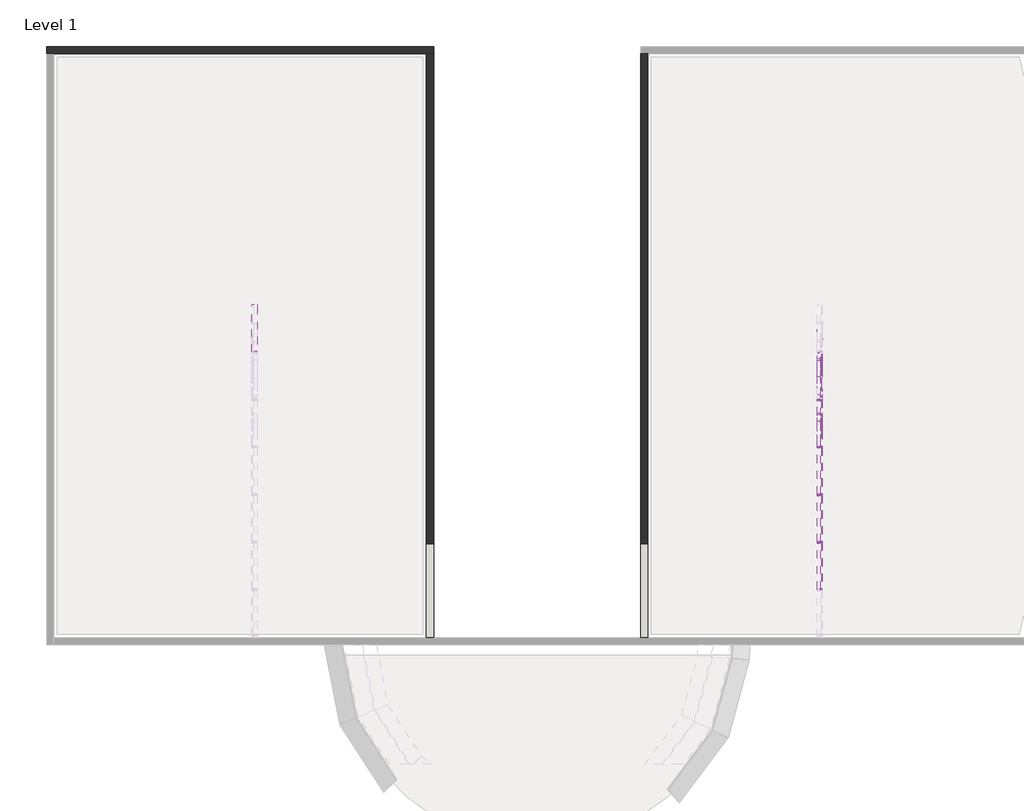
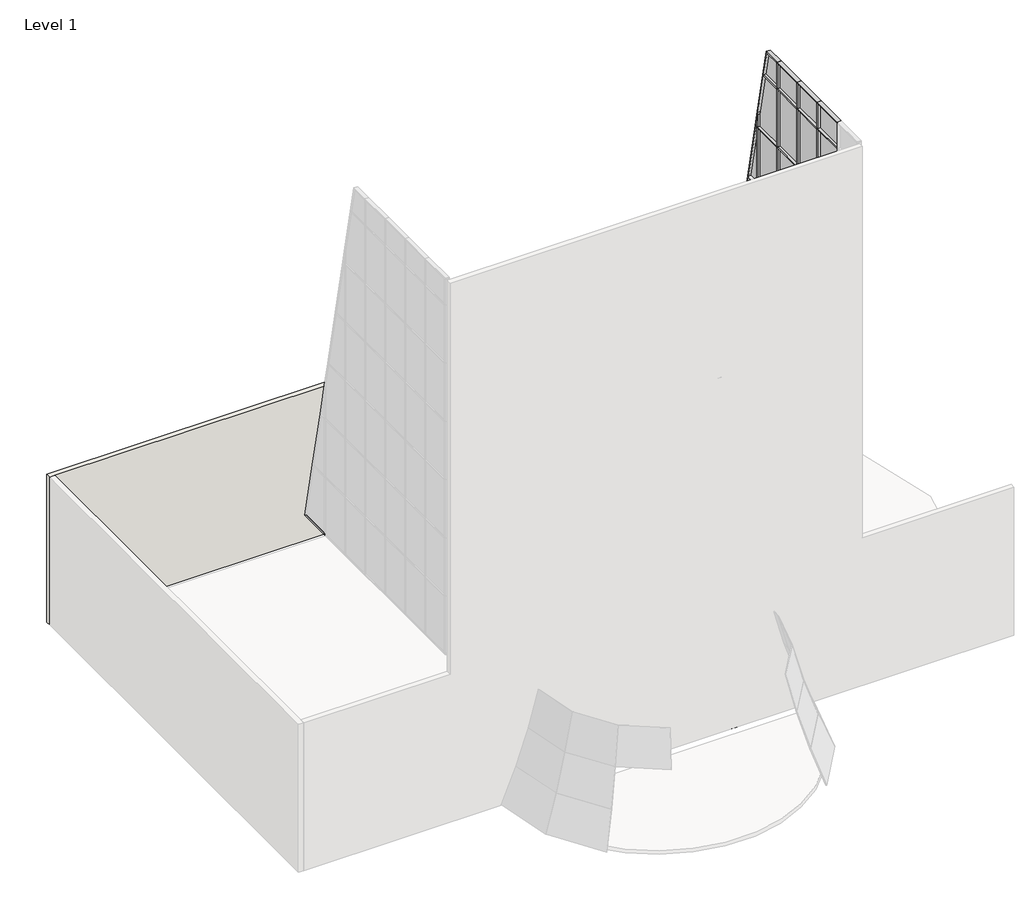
# One storey, part 3 of 4: 71 members, 35 plates, 3 walls.
"""IFC4 building model written with IfcOpenShell, lengths in millimetres."""

from ifc_helpers import new_model, si_unit, frame, origin, place, context, project, spatial, polyline, outline, extrude, faceted_brep, transform, mapped, element, save
from components import rectangular_mullion_50_x_150mm_518b68e2, rectangular_mullion_50_x_150mm_6225e4e3, rectangular_mullion_50_x_150mm_4186046b, rectangular_mullion_50_x_150mm_c32e1d9f, rectangular_mullion_50_x_150mm_f7b9a3ec, rectangular_mullion_50_x_150mm_a9c68ae1, rectangular_mullion_50_x_150mm_560a7013, rectangular_mullion_50_x_150mm_67848945, rectangular_mullion_50_x_150mm_3844b6de, rectangular_mullion_50_x_150mm_a6983a9d, rectangular_mullion_50_x_150mm_5f09bd8f, rectangular_mullion_50_x_150mm_ab79993e, rectangular_mullion_50_x_150mm_c65e338b, rectangular_mullion_50_x_150mm_b0743fa1, rectangular_mullion_50_x_150mm_df767b7e, rectangular_mullion_50_x_150mm_ab824ad0, rectangular_mullion_50_x_150mm_58501d06, system_panel_glazed_df259216, system_panel_glazed_5715ea40, system_panel_glazed_be4283e0, system_panel_glazed_d1c3b477, system_panel_glazed_e1aeb1aa, system_panel_glazed_6666598a, system_panel_glazed_d92d7be8, system_panel_glazed_97ec93bc, system_panel_glazed_90b81010, system_panel_glazed_8f3f999c

model = new_model("IFC4")

# Units and contexts
model_context = context("Model", 3, world=origin())
ifc_project = project(units=[si_unit("LENGTHUNIT", "METRE", prefix="MILLI")], contexts=[model_context])

# Site, building, storey
site = spatial("IfcSite", under=ifc_project)
building = spatial("IfcBuilding", under=site)
storey = spatial("IfcBuildingStorey", under=building, Name="Level 1", Elevation=0.0)

# Members
placement = place(None, origin())
rectangular_mullion_50_x_150mm_shape = rectangular_mullion_50_x_150mm_518b68e2(model_context)
element("IfcMember", 1, ObjectType="Rectangular Mullion : 50 x 150mm", at=placement, inside=storey, context=model_context, shape_type="MappedRepresentation", body=[
    mapped(rectangular_mullion_50_x_150mm_shape, transform((7953.3508723, 1296.5349876, 6850.0), x_axis=(0.0, 1.0, 0.0), y_axis=(1.0, 0.0, 0.0), z_axis=(0.0, 0.0, -1.0))),
])
element("IfcMember", 2, ObjectType="Rectangular Mullion : 50 x 150mm", at=placement, inside=storey, context=model_context, shape_type="MappedRepresentation", body=[
    mapped(rectangular_mullion_50_x_150mm_shape, transform((7953.3508723, 2649.855223, 6850.0), x_axis=(0.0, 1.0, 0.0), y_axis=(1.0, 0.0, 0.0), z_axis=(0.0, 0.0, -1.0))),
])
element("IfcMember", 3, ObjectType="Rectangular Mullion : 50 x 150mm", at=placement, inside=storey, context=model_context, shape_type="MappedRepresentation", body=[
    mapped(rectangular_mullion_50_x_150mm_shape, transform((7953.3508723, 4003.1754584, 6850.0), x_axis=(0.0, 1.0, 0.0), y_axis=(1.0, 0.0, 0.0), z_axis=(0.0, 0.0, -1.0))),
])
element("IfcMember", 4, ObjectType="Rectangular Mullion : 50 x 150mm", at=placement, inside=storey, context=model_context, shape_type="MappedRepresentation", body=[
    mapped(rectangular_mullion_50_x_150mm_shape, transform((7953.3508723, 5356.4956938, 6850.0), x_axis=(0.0, 1.0, 0.0), y_axis=(1.0, 0.0, 0.0), z_axis=(0.0, 0.0, -1.0))),
])
rectangular_mullion_50_x_150mm_2_shape = rectangular_mullion_50_x_150mm_6225e4e3(model_context)
element("IfcMember", 5, ObjectType="Rectangular Mullion : 50 x 150mm", at=placement, inside=storey, context=model_context, shape_type="MappedRepresentation", body=[
    mapped(rectangular_mullion_50_x_150mm_2_shape, transform((7953.3508723, 1296.5349876, 9200.0), x_axis=(0.0, 1.0, 0.0), y_axis=(1.0, 0.0, 0.0), z_axis=(0.0, 0.0, -1.0))),
])
element("IfcMember", 6, ObjectType="Rectangular Mullion : 50 x 150mm", at=placement, inside=storey, context=model_context, shape_type="MappedRepresentation", body=[
    mapped(rectangular_mullion_50_x_150mm_2_shape, transform((7953.3508723, 2649.855223, 9200.0), x_axis=(0.0, 1.0, 0.0), y_axis=(1.0, 0.0, 0.0), z_axis=(0.0, 0.0, -1.0))),
])
element("IfcMember", 7, ObjectType="Rectangular Mullion : 50 x 150mm", at=placement, inside=storey, context=model_context, shape_type="MappedRepresentation", body=[
    mapped(rectangular_mullion_50_x_150mm_2_shape, transform((7953.3508723, 4003.1754584, 9200.0), x_axis=(0.0, 1.0, 0.0), y_axis=(1.0, 0.0, 0.0), z_axis=(0.0, 0.0, -1.0))),
])
element("IfcMember", 8, ObjectType="Rectangular Mullion : 50 x 150mm", at=placement, inside=storey, context=model_context, shape_type="MappedRepresentation", body=[
    mapped(rectangular_mullion_50_x_150mm_2_shape, transform((7953.3508723, 5356.4956938, 9200.0), x_axis=(0.0, 1.0, 0.0), y_axis=(1.0, 0.0, 0.0), z_axis=(0.0, 0.0, -1.0))),
])
element("IfcMember", 9, ObjectType="Rectangular Mullion : 50 x 150mm", at=placement, inside=storey, context=model_context, shape_type="MappedRepresentation", body=[
    mapped(rectangular_mullion_50_x_150mm_2_shape, transform((7953.3508723, 1296.5349876, 11600.0), x_axis=(0.0, 1.0, 0.0), y_axis=(1.0, 0.0, 0.0), z_axis=(0.0, 0.0, -1.0))),
])
element("IfcMember", 10, ObjectType="Rectangular Mullion : 50 x 150mm", at=placement, inside=storey, context=model_context, shape_type="MappedRepresentation", body=[
    mapped(rectangular_mullion_50_x_150mm_2_shape, transform((7953.3508723, 2649.855223, 11600.0), x_axis=(0.0, 1.0, 0.0), y_axis=(1.0, 0.0, 0.0), z_axis=(0.0, 0.0, -1.0))),
])
element("IfcMember", 11, ObjectType="Rectangular Mullion : 50 x 150mm", at=placement, inside=storey, context=model_context, shape_type="MappedRepresentation", body=[
    mapped(rectangular_mullion_50_x_150mm_2_shape, transform((7953.3508723, 4003.1754584, 11600.0), x_axis=(0.0, 1.0, 0.0), y_axis=(1.0, 0.0, 0.0), z_axis=(0.0, 0.0, -1.0))),
])
element("IfcMember", 12, ObjectType="Rectangular Mullion : 50 x 150mm", at=placement, inside=storey, context=model_context, shape_type="MappedRepresentation", body=[
    mapped(rectangular_mullion_50_x_150mm_2_shape, transform((7953.3508723, 5356.4956938, 11600.0), x_axis=(0.0, 1.0, 0.0), y_axis=(1.0, 0.0, 0.0), z_axis=(0.0, 0.0, -1.0))),
])
element("IfcMember", 13, ObjectType="Rectangular Mullion : 50 x 150mm", at=placement, inside=storey, context=model_context, shape_type="MappedRepresentation", body=[
    mapped(rectangular_mullion_50_x_150mm_2_shape, transform((7953.3508723, 1296.5349876, 14000.0), x_axis=(0.0, 1.0, 0.0), y_axis=(1.0, 0.0, 0.0), z_axis=(0.0, 0.0, -1.0))),
])
element("IfcMember", 14, ObjectType="Rectangular Mullion : 50 x 150mm", at=placement, inside=storey, context=model_context, shape_type="MappedRepresentation", body=[
    mapped(rectangular_mullion_50_x_150mm_2_shape, transform((7953.3508723, 2649.855223, 14000.0), x_axis=(0.0, 1.0, 0.0), y_axis=(1.0, 0.0, 0.0), z_axis=(0.0, 0.0, -1.0))),
])
element("IfcMember", 15, ObjectType="Rectangular Mullion : 50 x 150mm", at=placement, inside=storey, context=model_context, shape_type="MappedRepresentation", body=[
    mapped(rectangular_mullion_50_x_150mm_2_shape, transform((7953.3508723, 4003.1754584, 14000.0), x_axis=(0.0, 1.0, 0.0), y_axis=(1.0, 0.0, 0.0), z_axis=(0.0, 0.0, -1.0))),
])
element("IfcMember", 16, ObjectType="Rectangular Mullion : 50 x 150mm", at=placement, inside=storey, context=model_context, shape_type="MappedRepresentation", body=[
    mapped(rectangular_mullion_50_x_150mm_2_shape, transform((7953.3508723, 5356.4956938, 14000.0), x_axis=(0.0, 1.0, 0.0), y_axis=(1.0, 0.0, 0.0), z_axis=(0.0, 0.0, -1.0))),
])
element("IfcMember", 17, ObjectType="Rectangular Mullion : 50 x 150mm", at=placement, inside=storey, context=model_context, shape_type="MappedRepresentation", body=[
    mapped(rectangular_mullion_50_x_150mm_2_shape, transform((7953.3508723, 1296.5349876, 16400.0), x_axis=(0.0, 1.0, 0.0), y_axis=(1.0, 0.0, 0.0), z_axis=(0.0, 0.0, -1.0))),
])
element("IfcMember", 18, ObjectType="Rectangular Mullion : 50 x 150mm", at=placement, inside=storey, context=model_context, shape_type="MappedRepresentation", body=[
    mapped(rectangular_mullion_50_x_150mm_2_shape, transform((7953.3508723, 2649.855223, 16400.0), x_axis=(0.0, 1.0, 0.0), y_axis=(1.0, 0.0, 0.0), z_axis=(0.0, 0.0, -1.0))),
])
element("IfcMember", 19, ObjectType="Rectangular Mullion : 50 x 150mm", at=placement, inside=storey, context=model_context, shape_type="MappedRepresentation", body=[
    mapped(rectangular_mullion_50_x_150mm_2_shape, transform((7953.3508723, 4003.1754584, 16400.0), x_axis=(0.0, 1.0, 0.0), y_axis=(1.0, 0.0, 0.0), z_axis=(0.0, 0.0, -1.0))),
])
element("IfcMember", 20, ObjectType="Rectangular Mullion : 50 x 150mm", at=placement, inside=storey, context=model_context, shape_type="MappedRepresentation", body=[
    mapped(rectangular_mullion_50_x_150mm_2_shape, transform((7953.3508723, 5356.4956938, 16400.0), x_axis=(0.0, 1.0, 0.0), y_axis=(1.0, 0.0, 0.0), z_axis=(0.0, 0.0, -1.0))),
])
element("IfcMember", 21, ObjectType="Rectangular Mullion : 50 x 150mm", at=placement, inside=storey, context=model_context, shape_type="MappedRepresentation", body=[
    mapped(rectangular_mullion_50_x_150mm_2_shape, transform((7953.3508723, 1296.5349876, 18800.0), x_axis=(0.0, 1.0, 0.0), y_axis=(1.0, 0.0, 0.0), z_axis=(0.0, 0.0, -1.0))),
])
element("IfcMember", 22, ObjectType="Rectangular Mullion : 50 x 150mm", at=placement, inside=storey, context=model_context, shape_type="MappedRepresentation", body=[
    mapped(rectangular_mullion_50_x_150mm_2_shape, transform((7953.3508723, 2649.855223, 18800.0), x_axis=(0.0, 1.0, 0.0), y_axis=(1.0, 0.0, 0.0), z_axis=(0.0, 0.0, -1.0))),
])
element("IfcMember", 23, ObjectType="Rectangular Mullion : 50 x 150mm", at=placement, inside=storey, context=model_context, shape_type="MappedRepresentation", body=[
    mapped(rectangular_mullion_50_x_150mm_2_shape, transform((7953.3508723, 4003.1754584, 18800.0), x_axis=(0.0, 1.0, 0.0), y_axis=(1.0, 0.0, 0.0), z_axis=(0.0, 0.0, -1.0))),
])
rectangular_mullion_50_x_150mm_3_shape = rectangular_mullion_50_x_150mm_4186046b(model_context)
element("IfcMember", 24, ObjectType="Rectangular Mullion : 50 x 150mm", at=placement, inside=storey, context=model_context, shape_type="MappedRepresentation", body=[
    mapped(rectangular_mullion_50_x_150mm_3_shape, transform((7953.3508723, 1296.5349876, 22300.0), x_axis=(0.0, 0.0, 1.0), y_axis=(1.0, 0.0, 0.0), z_axis=(0.0, 1.0, 0.0))),
])
element("IfcMember", 25, ObjectType="Rectangular Mullion : 50 x 150mm", at=placement, inside=storey, context=model_context, shape_type="MappedRepresentation", body=[
    mapped(rectangular_mullion_50_x_150mm_3_shape, transform((7953.3508723, 2649.855223, 22300.0), x_axis=(0.0, 0.0, 1.0), y_axis=(1.0, 0.0, 0.0), z_axis=(0.0, 1.0, 0.0))),
])
element("IfcMember", 26, ObjectType="Rectangular Mullion : 50 x 150mm", at=placement, inside=storey, context=model_context, shape_type="MappedRepresentation", body=[
    mapped(rectangular_mullion_50_x_150mm_3_shape, transform((7953.3508723, 4003.1754584, 22300.0), x_axis=(0.0, 0.0, 1.0), y_axis=(1.0, 0.0, 0.0), z_axis=(0.0, 1.0, 0.0))),
])
element("IfcMember", 27, ObjectType="Rectangular Mullion : 50 x 150mm", at=placement, inside=storey, context=model_context, shape_type="MappedRepresentation", body=[
    mapped(rectangular_mullion_50_x_150mm_3_shape, transform((7953.3508723, 1296.5349876, 6800.0), x_axis=(0.0, 0.0, -1.0), y_axis=(1.0, 0.0, 0.0), z_axis=(0.0, -1.0, 0.0))),
])
element("IfcMember", 28, ObjectType="Rectangular Mullion : 50 x 150mm", at=placement, inside=storey, context=model_context, shape_type="MappedRepresentation", body=[
    mapped(rectangular_mullion_50_x_150mm_3_shape, transform((7953.3508723, 2649.855223, 6800.0), x_axis=(0.0, 0.0, -1.0), y_axis=(1.0, 0.0, 0.0), z_axis=(0.0, -1.0, 0.0))),
])
element("IfcMember", 29, ObjectType="Rectangular Mullion : 50 x 150mm", at=placement, inside=storey, context=model_context, shape_type="MappedRepresentation", body=[
    mapped(rectangular_mullion_50_x_150mm_3_shape, transform((7953.3508723, 4003.1754584, 6800.0), x_axis=(0.0, 0.0, -1.0), y_axis=(1.0, 0.0, 0.0), z_axis=(0.0, -1.0, 0.0))),
])
element("IfcMember", 30, ObjectType="Rectangular Mullion : 50 x 150mm", at=placement, inside=storey, context=model_context, shape_type="MappedRepresentation", body=[
    mapped(rectangular_mullion_50_x_150mm_3_shape, transform((7953.3508723, 5356.4956938, 6800.0), x_axis=(0.0, 0.0, -1.0), y_axis=(1.0, 0.0, 0.0), z_axis=(0.0, -1.0, 0.0))),
])
rectangular_mullion_50_x_150mm_4_shape = rectangular_mullion_50_x_150mm_c32e1d9f(model_context)
element("IfcMember", 31, ObjectType="Rectangular Mullion : 50 x 150mm", at=placement, inside=storey, context=model_context, shape_type="MappedRepresentation", body=[
    mapped(rectangular_mullion_50_x_150mm_4_shape, transform((7953.3508723, 1271.5349876, 9200.0), x_axis=(0.0, 0.0, 1.0), y_axis=(1.0, 0.0, 0.0), z_axis=(0.0, 1.0, 0.0))),
])
element("IfcMember", 32, ObjectType="Rectangular Mullion : 50 x 150mm", at=placement, inside=storey, context=model_context, shape_type="MappedRepresentation", body=[
    mapped(rectangular_mullion_50_x_150mm_4_shape, transform((7953.3508723, 2624.855223, 9200.0), x_axis=(0.0, 0.0, 1.0), y_axis=(1.0, 0.0, 0.0), z_axis=(0.0, 1.0, 0.0))),
])
element("IfcMember", 33, ObjectType="Rectangular Mullion : 50 x 150mm", at=placement, inside=storey, context=model_context, shape_type="MappedRepresentation", body=[
    mapped(rectangular_mullion_50_x_150mm_4_shape, transform((7953.3508723, 3978.1754584, 9200.0), x_axis=(0.0, 0.0, 1.0), y_axis=(1.0, 0.0, 0.0), z_axis=(0.0, 1.0, 0.0))),
])
element("IfcMember", 34, ObjectType="Rectangular Mullion : 50 x 150mm", at=placement, inside=storey, context=model_context, shape_type="MappedRepresentation", body=[
    mapped(rectangular_mullion_50_x_150mm_4_shape, transform((7953.3508723, 5331.4956938, 9200.0), x_axis=(0.0, 0.0, 1.0), y_axis=(1.0, 0.0, 0.0), z_axis=(0.0, 1.0, 0.0))),
])
element("IfcMember", 35, ObjectType="Rectangular Mullion : 50 x 150mm", at=placement, inside=storey, context=model_context, shape_type="MappedRepresentation", body=[
    mapped(rectangular_mullion_50_x_150mm_4_shape, transform((7953.3508723, 6684.8159291, 9200.0), x_axis=(0.0, 0.0, 1.0), y_axis=(1.0, 0.0, 0.0), z_axis=(0.0, 1.0, 0.0))),
])
element("IfcMember", 36, ObjectType="Rectangular Mullion : 50 x 150mm", at=placement, inside=storey, context=model_context, shape_type="MappedRepresentation", body=[
    mapped(rectangular_mullion_50_x_150mm_4_shape, transform((7953.3508723, 1271.5349876, 11600.0), x_axis=(0.0, 0.0, 1.0), y_axis=(1.0, 0.0, 0.0), z_axis=(0.0, 1.0, 0.0))),
])
element("IfcMember", 37, ObjectType="Rectangular Mullion : 50 x 150mm", at=placement, inside=storey, context=model_context, shape_type="MappedRepresentation", body=[
    mapped(rectangular_mullion_50_x_150mm_4_shape, transform((7953.3508723, 2624.855223, 11600.0), x_axis=(0.0, 0.0, 1.0), y_axis=(1.0, 0.0, 0.0), z_axis=(0.0, 1.0, 0.0))),
])
element("IfcMember", 38, ObjectType="Rectangular Mullion : 50 x 150mm", at=placement, inside=storey, context=model_context, shape_type="MappedRepresentation", body=[
    mapped(rectangular_mullion_50_x_150mm_4_shape, transform((7953.3508723, 3978.1754584, 11600.0), x_axis=(0.0, 0.0, 1.0), y_axis=(1.0, 0.0, 0.0), z_axis=(0.0, 1.0, 0.0))),
])
element("IfcMember", 39, ObjectType="Rectangular Mullion : 50 x 150mm", at=placement, inside=storey, context=model_context, shape_type="MappedRepresentation", body=[
    mapped(rectangular_mullion_50_x_150mm_4_shape, transform((7953.3508723, 5331.4956938, 11600.0), x_axis=(0.0, 0.0, 1.0), y_axis=(1.0, 0.0, 0.0), z_axis=(0.0, 1.0, 0.0))),
])
element("IfcMember", 40, ObjectType="Rectangular Mullion : 50 x 150mm", at=placement, inside=storey, context=model_context, shape_type="MappedRepresentation", body=[
    mapped(rectangular_mullion_50_x_150mm_4_shape, transform((7953.3508723, 6684.8159291, 11600.0), x_axis=(0.0, 0.0, 1.0), y_axis=(1.0, 0.0, 0.0), z_axis=(0.0, 1.0, 0.0))),
])
element("IfcMember", 41, ObjectType="Rectangular Mullion : 50 x 150mm", at=placement, inside=storey, context=model_context, shape_type="MappedRepresentation", body=[
    mapped(rectangular_mullion_50_x_150mm_4_shape, transform((7953.3508723, 1271.5349876, 14000.0), x_axis=(0.0, 0.0, 1.0), y_axis=(1.0, 0.0, 0.0), z_axis=(0.0, 1.0, 0.0))),
])
element("IfcMember", 42, ObjectType="Rectangular Mullion : 50 x 150mm", at=placement, inside=storey, context=model_context, shape_type="MappedRepresentation", body=[
    mapped(rectangular_mullion_50_x_150mm_4_shape, transform((7953.3508723, 2624.855223, 14000.0), x_axis=(0.0, 0.0, 1.0), y_axis=(1.0, 0.0, 0.0), z_axis=(0.0, 1.0, 0.0))),
])
element("IfcMember", 43, ObjectType="Rectangular Mullion : 50 x 150mm", at=placement, inside=storey, context=model_context, shape_type="MappedRepresentation", body=[
    mapped(rectangular_mullion_50_x_150mm_4_shape, transform((7953.3508723, 3978.1754584, 14000.0), x_axis=(0.0, 0.0, 1.0), y_axis=(1.0, 0.0, 0.0), z_axis=(0.0, 1.0, 0.0))),
])
element("IfcMember", 44, ObjectType="Rectangular Mullion : 50 x 150mm", at=placement, inside=storey, context=model_context, shape_type="MappedRepresentation", body=[
    mapped(rectangular_mullion_50_x_150mm_4_shape, transform((7953.3508723, 5331.4956938, 14000.0), x_axis=(0.0, 0.0, 1.0), y_axis=(1.0, 0.0, 0.0), z_axis=(0.0, 1.0, 0.0))),
])
element("IfcMember", 45, ObjectType="Rectangular Mullion : 50 x 150mm", at=placement, inside=storey, context=model_context, shape_type="MappedRepresentation", body=[
    mapped(rectangular_mullion_50_x_150mm_4_shape, transform((7953.3508723, 1271.5349876, 16400.0), x_axis=(0.0, 0.0, 1.0), y_axis=(1.0, 0.0, 0.0), z_axis=(0.0, 1.0, 0.0))),
])
element("IfcMember", 46, ObjectType="Rectangular Mullion : 50 x 150mm", at=placement, inside=storey, context=model_context, shape_type="MappedRepresentation", body=[
    mapped(rectangular_mullion_50_x_150mm_4_shape, transform((7953.3508723, 2624.855223, 16400.0), x_axis=(0.0, 0.0, 1.0), y_axis=(1.0, 0.0, 0.0), z_axis=(0.0, 1.0, 0.0))),
])
element("IfcMember", 47, ObjectType="Rectangular Mullion : 50 x 150mm", at=placement, inside=storey, context=model_context, shape_type="MappedRepresentation", body=[
    mapped(rectangular_mullion_50_x_150mm_4_shape, transform((7953.3508723, 3978.1754584, 16400.0), x_axis=(0.0, 0.0, 1.0), y_axis=(1.0, 0.0, 0.0), z_axis=(0.0, 1.0, 0.0))),
])
element("IfcMember", 48, ObjectType="Rectangular Mullion : 50 x 150mm", at=placement, inside=storey, context=model_context, shape_type="MappedRepresentation", body=[
    mapped(rectangular_mullion_50_x_150mm_4_shape, transform((7953.3508723, 5331.4956938, 16400.0), x_axis=(0.0, 0.0, 1.0), y_axis=(1.0, 0.0, 0.0), z_axis=(0.0, 1.0, 0.0))),
])
element("IfcMember", 49, ObjectType="Rectangular Mullion : 50 x 150mm", at=placement, inside=storey, context=model_context, shape_type="MappedRepresentation", body=[
    mapped(rectangular_mullion_50_x_150mm_4_shape, transform((7953.3508723, 1271.5349876, 18800.0), x_axis=(0.0, 0.0, 1.0), y_axis=(1.0, 0.0, 0.0), z_axis=(0.0, 1.0, 0.0))),
])
element("IfcMember", 50, ObjectType="Rectangular Mullion : 50 x 150mm", at=placement, inside=storey, context=model_context, shape_type="MappedRepresentation", body=[
    mapped(rectangular_mullion_50_x_150mm_4_shape, transform((7953.3508723, 2624.855223, 18800.0), x_axis=(0.0, 0.0, 1.0), y_axis=(1.0, 0.0, 0.0), z_axis=(0.0, 1.0, 0.0))),
])
element("IfcMember", 51, ObjectType="Rectangular Mullion : 50 x 150mm", at=placement, inside=storey, context=model_context, shape_type="MappedRepresentation", body=[
    mapped(rectangular_mullion_50_x_150mm_4_shape, transform((7953.3508723, 3978.1754584, 18800.0), x_axis=(0.0, 0.0, 1.0), y_axis=(1.0, 0.0, 0.0), z_axis=(0.0, 1.0, 0.0))),
])
element("IfcMember", 52, ObjectType="Rectangular Mullion : 50 x 150mm", at=placement, inside=storey, context=model_context, shape_type="MappedRepresentation", body=[
    mapped(rectangular_mullion_50_x_150mm_4_shape, transform((7953.3508723, 5331.4956938, 18800.0), x_axis=(0.0, 0.0, 1.0), y_axis=(1.0, 0.0, 0.0), z_axis=(0.0, 1.0, 0.0))),
])
element("IfcMember", 53, ObjectType="Rectangular Mullion : 50 x 150mm", at=placement, inside=storey, context=model_context, shape_type="MappedRepresentation", body=[
    mapped(rectangular_mullion_50_x_150mm_4_shape, transform((7953.3508723, 1271.5349876, 21200.0), x_axis=(0.0, 0.0, 1.0), y_axis=(1.0, 0.0, 0.0), z_axis=(0.0, 1.0, 0.0))),
])
element("IfcMember", 54, ObjectType="Rectangular Mullion : 50 x 150mm", at=placement, inside=storey, context=model_context, shape_type="MappedRepresentation", body=[
    mapped(rectangular_mullion_50_x_150mm_4_shape, transform((7953.3508723, 2624.855223, 21200.0), x_axis=(0.0, 0.0, 1.0), y_axis=(1.0, 0.0, 0.0), z_axis=(0.0, 1.0, 0.0))),
])
element("IfcMember", 55, ObjectType="Rectangular Mullion : 50 x 150mm", at=placement, inside=storey, context=model_context, shape_type="MappedRepresentation", body=[
    mapped(rectangular_mullion_50_x_150mm_4_shape, transform((7953.3508723, 3978.1754584, 21200.0), x_axis=(0.0, 0.0, 1.0), y_axis=(1.0, 0.0, 0.0), z_axis=(0.0, 1.0, 0.0))),
])
rectangular_mullion_50_x_150mm_5_shape = rectangular_mullion_50_x_150mm_f7b9a3ec(model_context)
element("IfcMember", 56, ObjectType="Rectangular Mullion : 50 x 150mm", at=placement, inside=storey, context=model_context, shape_type="MappedRepresentation", body=[
    mapped(rectangular_mullion_50_x_150mm_5_shape, transform((-8113.532296, 8063.1361645, 6800.0), x_axis=(0.0, 0.0, -1.0), y_axis=(-1.0, 0.0, 0.0), z_axis=(0.0, 1.0, 0.0))),
])
rectangular_mullion_50_x_150mm_6_shape = rectangular_mullion_50_x_150mm_a9c68ae1(model_context)
element("IfcMember", 57, ObjectType="Rectangular Mullion : 50 x 150mm", at=placement, inside=storey, context=model_context, shape_type="MappedRepresentation", body=[
    mapped(rectangular_mullion_50_x_150mm_6_shape, transform((7953.3508723, 1296.5349876, 21200.0), x_axis=(0.0, 1.0, 0.0), y_axis=(1.0, 0.0, 0.0), z_axis=(0.0, 0.0, -1.0))),
])
element("IfcMember", 58, ObjectType="Rectangular Mullion : 50 x 150mm", at=placement, inside=storey, context=model_context, shape_type="MappedRepresentation", body=[
    mapped(rectangular_mullion_50_x_150mm_6_shape, transform((7953.3508723, 2649.855223, 21200.0), x_axis=(0.0, 1.0, 0.0), y_axis=(1.0, 0.0, 0.0), z_axis=(0.0, 0.0, -1.0))),
])
element("IfcMember", 59, ObjectType="Rectangular Mullion : 50 x 150mm", at=placement, inside=storey, context=model_context, shape_type="MappedRepresentation", body=[
    mapped(rectangular_mullion_50_x_150mm_6_shape, transform((7953.3508723, 4003.1754584, 21200.0), x_axis=(0.0, 1.0, 0.0), y_axis=(1.0, 0.0, 0.0), z_axis=(0.0, 0.0, -1.0))),
])
rectangular_mullion_50_x_150mm_7_shape = rectangular_mullion_50_x_150mm_560a7013(model_context)
element("IfcMember", 60, ObjectType="Rectangular Mullion : 50 x 150mm", at=placement, inside=storey, context=model_context, shape_type="MappedRepresentation", body=[
    mapped(rectangular_mullion_50_x_150mm_7_shape, transform((7953.3508723, 4748.602516, 22300.0), x_axis=(0.0, 0.0, 1.0), y_axis=(1.0, 0.0, 0.0), z_axis=(0.0, 1.0, 0.0))),
])
rectangular_mullion_50_x_150mm_8_shape = rectangular_mullion_50_x_150mm_67848945(model_context)
element("IfcMember", 61, ObjectType="Rectangular Mullion : 50 x 150mm", at=placement, inside=storey, context=model_context, shape_type="MappedRepresentation", body=[
    mapped(rectangular_mullion_50_x_150mm_8_shape, transform((7953.3508723, 6709.8159291, 6800.0), x_axis=(0.0, 0.0, -1.0), y_axis=(1.0, 0.0, 0.0), z_axis=(0.0, -1.0, 0.0))),
])
rectangular_mullion_50_x_150mm_9_shape = rectangular_mullion_50_x_150mm_3844b6de(model_context)
element("IfcMember", 62, ObjectType="Rectangular Mullion : 50 x 150mm", at=placement, inside=storey, context=model_context, shape_type="MappedRepresentation", body=[
    mapped(rectangular_mullion_50_x_150mm_9_shape, transform((7953.3508723, 5356.4956938, 19457.263961), x_axis=(0.0, 0.9778914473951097, 0.20911316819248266), y_axis=(1.0, 0.0, 0.0), z_axis=(0.0, 0.20911316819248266, -0.9778914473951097))),
])
rectangular_mullion_50_x_150mm_10_shape = rectangular_mullion_50_x_150mm_a6983a9d(model_context)
element("IfcMember", 63, ObjectType="Rectangular Mullion : 50 x 150mm", at=placement, inside=storey, context=model_context, shape_type="MappedRepresentation", body=[
    mapped(rectangular_mullion_50_x_150mm_10_shape, transform((7953.3508723, 6709.8159291, 13128.6319805), x_axis=(0.0, 0.9778914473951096, 0.2091131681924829), y_axis=(1.0, 0.0, 0.0), z_axis=(0.0, 0.2091131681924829, -0.9778914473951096))),
])
rectangular_mullion_50_x_150mm_11_shape = rectangular_mullion_50_x_150mm_5f09bd8f(model_context)
element("IfcMember", 64, ObjectType="Rectangular Mullion : 50 x 150mm", at=placement, inside=storey, context=model_context, shape_type="MappedRepresentation", body=[
    mapped(rectangular_mullion_50_x_150mm_11_shape, transform((7953.3508723, 6523.4818246, 14000.0), x_axis=(0.0, 0.9778914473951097, 0.20911316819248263), y_axis=(1.0, 0.0, 0.0), z_axis=(0.0, 0.2091131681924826, -0.9778914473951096))),
])
element("IfcMember", 65, ObjectType="Rectangular Mullion : 50 x 150mm", at=placement, inside=storey, context=model_context, shape_type="MappedRepresentation", body=[
    mapped(rectangular_mullion_50_x_150mm_11_shape, transform((7953.3508723, 6010.2637112, 16400.0), x_axis=(0.0, 0.9778914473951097, 0.20911316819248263), y_axis=(1.0, 0.0, 0.0), z_axis=(0.0, 0.2091131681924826, -0.9778914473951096))),
])
rectangular_mullion_50_x_150mm_12_shape = rectangular_mullion_50_x_150mm_ab79993e(model_context)
element("IfcMember", 66, ObjectType="Rectangular Mullion : 50 x 150mm", at=placement, inside=storey, context=model_context, shape_type="MappedRepresentation", body=[
    mapped(rectangular_mullion_50_x_150mm_12_shape, transform((7953.3508723, 5497.0455979, 18800.0), x_axis=(0.0, 0.9778914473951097, 0.20911316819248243), y_axis=(1.0, 0.0, 0.0), z_axis=(0.0, 0.2091131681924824, -0.9778914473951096))),
])
rectangular_mullion_50_x_150mm_13_shape = rectangular_mullion_50_x_150mm_c65e338b(model_context)
element("IfcMember", 67, ObjectType="Rectangular Mullion : 50 x 150mm", at=placement, inside=storey, context=model_context, shape_type="MappedRepresentation", body=[
    mapped(rectangular_mullion_50_x_150mm_13_shape, transform((7953.3508723, 4983.8274846, 21200.0), x_axis=(0.0, 0.9778914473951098, 0.20911316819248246), y_axis=(1.0, 0.0, 0.0), z_axis=(0.0, 0.20911316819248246, -0.9778914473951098))),
])
rectangular_mullion_50_x_150mm_14_shape = rectangular_mullion_50_x_150mm_b0743fa1(model_context)
element("IfcMember", 68, ObjectType="Rectangular Mullion : 50 x 150mm", at=placement, inside=storey, context=model_context, shape_type="MappedRepresentation", body=[
    mapped(rectangular_mullion_50_x_150mm_14_shape, transform((7953.3508723, 6523.4818246, 14000.0), x_axis=(0.0, 0.0, 1.0), y_axis=(1.0, 0.0, 0.0), z_axis=(0.0, 1.0, 0.0))),
])
rectangular_mullion_50_x_150mm_15_shape = rectangular_mullion_50_x_150mm_df767b7e(model_context)
element("IfcMember", 69, ObjectType="Rectangular Mullion : 50 x 150mm", at=placement, inside=storey, context=model_context, shape_type="MappedRepresentation", body=[
    mapped(rectangular_mullion_50_x_150mm_15_shape, transform((7953.3508723, 5497.0455979, 18800.0), x_axis=(0.0, 0.0, 1.0), y_axis=(1.0, 0.0, 0.0), z_axis=(0.0, 1.0, 0.0))),
])
rectangular_mullion_50_x_150mm_16_shape = rectangular_mullion_50_x_150mm_ab824ad0(model_context)
element("IfcMember", 70, ObjectType="Rectangular Mullion : 50 x 150mm", at=placement, inside=storey, context=model_context, shape_type="MappedRepresentation", body=[
    mapped(rectangular_mullion_50_x_150mm_16_shape, transform((7953.3508723, 4983.8274846, 21200.0), x_axis=(0.0, 0.0, 1.0), y_axis=(1.0, 0.0, 0.0), z_axis=(0.0, 1.0, 0.0))),
])
rectangular_mullion_50_x_150mm_17_shape = rectangular_mullion_50_x_150mm_58501d06(model_context)
element("IfcMember", 71, ObjectType="Rectangular Mullion : 50 x 150mm", at=placement, inside=storey, context=model_context, shape_type="MappedRepresentation", body=[
    mapped(rectangular_mullion_50_x_150mm_17_shape, transform((7953.3508723, 5356.4956938, 18800.0), x_axis=(0.0, 1.0, 0.0), y_axis=(1.0, 0.0, 0.0), z_axis=(0.0, 0.0, -1.0))),
])

# Plates
system_panel_glazed_shape = system_panel_glazed_df259216(model_context)
element("IfcPlate", 72, ObjectType="System Panel : Glazed", at=placement, inside=storey, context=model_context, shape_type="MappedRepresentation", body=[
    mapped(system_panel_glazed_shape, transform((7953.3508723, 619.8748699, 6850.0), x_axis=(0.0, 1.0, 0.0), y_axis=(-1.0, 0.0, 0.0), z_axis=(0.0, 0.0, 1.0))),
])
element("IfcPlate", 73, ObjectType="System Panel : Glazed", at=placement, inside=storey, context=model_context, shape_type="MappedRepresentation", body=[
    mapped(system_panel_glazed_shape, transform((7953.3508723, 1973.1951053, 6850.0), x_axis=(0.0, 1.0, 0.0), y_axis=(-1.0, 0.0, 0.0), z_axis=(0.0, 0.0, 1.0))),
])
element("IfcPlate", 74, ObjectType="System Panel : Glazed", at=placement, inside=storey, context=model_context, shape_type="MappedRepresentation", body=[
    mapped(system_panel_glazed_shape, transform((7953.3508723, 3326.5153407, 6850.0), x_axis=(0.0, 1.0, 0.0), y_axis=(-1.0, 0.0, 0.0), z_axis=(0.0, 0.0, 1.0))),
])
element("IfcPlate", 75, ObjectType="System Panel : Glazed", at=placement, inside=storey, context=model_context, shape_type="MappedRepresentation", body=[
    mapped(system_panel_glazed_shape, transform((7953.3508723, 4679.8355761, 6850.0), x_axis=(0.0, 1.0, 0.0), y_axis=(-1.0, 0.0, 0.0), z_axis=(0.0, 0.0, 1.0))),
])
element("IfcPlate", 76, ObjectType="System Panel : Glazed", at=placement, inside=storey, context=model_context, shape_type="MappedRepresentation", body=[
    mapped(system_panel_glazed_shape, transform((7953.3508723, 6033.1558115, 6850.0), x_axis=(0.0, 1.0, 0.0), y_axis=(-1.0, 0.0, 0.0), z_axis=(0.0, 0.0, 1.0))),
])
system_panel_glazed_2_shape = system_panel_glazed_5715ea40(model_context)
element("IfcPlate", 77, ObjectType="System Panel : Glazed", at=placement, inside=storey, context=model_context, shape_type="MappedRepresentation", body=[
    mapped(system_panel_glazed_2_shape, transform((7953.3508723, 619.8748699, 9225.0), x_axis=(0.0, 1.0, 0.0), y_axis=(-1.0, 0.0, 0.0), z_axis=(0.0, 0.0, 1.0))),
])
element("IfcPlate", 78, ObjectType="System Panel : Glazed", at=placement, inside=storey, context=model_context, shape_type="MappedRepresentation", body=[
    mapped(system_panel_glazed_2_shape, transform((7953.3508723, 1973.1951053, 9225.0), x_axis=(0.0, 1.0, 0.0), y_axis=(-1.0, 0.0, 0.0), z_axis=(0.0, 0.0, 1.0))),
])
element("IfcPlate", 79, ObjectType="System Panel : Glazed", at=placement, inside=storey, context=model_context, shape_type="MappedRepresentation", body=[
    mapped(system_panel_glazed_2_shape, transform((7953.3508723, 3326.5153407, 9225.0), x_axis=(0.0, 1.0, 0.0), y_axis=(-1.0, 0.0, 0.0), z_axis=(0.0, 0.0, 1.0))),
])
element("IfcPlate", 80, ObjectType="System Panel : Glazed", at=placement, inside=storey, context=model_context, shape_type="MappedRepresentation", body=[
    mapped(system_panel_glazed_2_shape, transform((7953.3508723, 4679.8355761, 9225.0), x_axis=(0.0, 1.0, 0.0), y_axis=(-1.0, 0.0, 0.0), z_axis=(0.0, 0.0, 1.0))),
])
element("IfcPlate", 81, ObjectType="System Panel : Glazed", at=placement, inside=storey, context=model_context, shape_type="MappedRepresentation", body=[
    mapped(system_panel_glazed_2_shape, transform((7953.3508723, 6033.1558115, 9225.0), x_axis=(0.0, 1.0, 0.0), y_axis=(-1.0, 0.0, 0.0), z_axis=(0.0, 0.0, 1.0))),
])
element("IfcPlate", 82, ObjectType="System Panel : Glazed", at=placement, inside=storey, context=model_context, shape_type="MappedRepresentation", body=[
    mapped(system_panel_glazed_2_shape, transform((7953.3508723, 619.8748699, 11625.0), x_axis=(0.0, 1.0, 0.0), y_axis=(-1.0, 0.0, 0.0), z_axis=(0.0, 0.0, 1.0))),
])
element("IfcPlate", 83, ObjectType="System Panel : Glazed", at=placement, inside=storey, context=model_context, shape_type="MappedRepresentation", body=[
    mapped(system_panel_glazed_2_shape, transform((7953.3508723, 1973.1951053, 11625.0), x_axis=(0.0, 1.0, 0.0), y_axis=(-1.0, 0.0, 0.0), z_axis=(0.0, 0.0, 1.0))),
])
element("IfcPlate", 84, ObjectType="System Panel : Glazed", at=placement, inside=storey, context=model_context, shape_type="MappedRepresentation", body=[
    mapped(system_panel_glazed_2_shape, transform((7953.3508723, 3326.5153407, 11625.0), x_axis=(0.0, 1.0, 0.0), y_axis=(-1.0, 0.0, 0.0), z_axis=(0.0, 0.0, 1.0))),
])
element("IfcPlate", 85, ObjectType="System Panel : Glazed", at=placement, inside=storey, context=model_context, shape_type="MappedRepresentation", body=[
    mapped(system_panel_glazed_2_shape, transform((7953.3508723, 4679.8355761, 11625.0), x_axis=(0.0, 1.0, 0.0), y_axis=(-1.0, 0.0, 0.0), z_axis=(0.0, 0.0, 1.0))),
])
element("IfcPlate", 86, ObjectType="System Panel : Glazed", at=placement, inside=storey, context=model_context, shape_type="MappedRepresentation", body=[
    mapped(system_panel_glazed_2_shape, transform((7953.3508723, 619.8748699, 14025.0), x_axis=(0.0, 1.0, 0.0), y_axis=(-1.0, 0.0, 0.0), z_axis=(0.0, 0.0, 1.0))),
])
element("IfcPlate", 87, ObjectType="System Panel : Glazed", at=placement, inside=storey, context=model_context, shape_type="MappedRepresentation", body=[
    mapped(system_panel_glazed_2_shape, transform((7953.3508723, 1973.1951053, 14025.0), x_axis=(0.0, 1.0, 0.0), y_axis=(-1.0, 0.0, 0.0), z_axis=(0.0, 0.0, 1.0))),
])
element("IfcPlate", 88, ObjectType="System Panel : Glazed", at=placement, inside=storey, context=model_context, shape_type="MappedRepresentation", body=[
    mapped(system_panel_glazed_2_shape, transform((7953.3508723, 3326.5153407, 14025.0), x_axis=(0.0, 1.0, 0.0), y_axis=(-1.0, 0.0, 0.0), z_axis=(0.0, 0.0, 1.0))),
])
element("IfcPlate", 89, ObjectType="System Panel : Glazed", at=placement, inside=storey, context=model_context, shape_type="MappedRepresentation", body=[
    mapped(system_panel_glazed_2_shape, transform((7953.3508723, 4679.8355761, 14025.0), x_axis=(0.0, 1.0, 0.0), y_axis=(-1.0, 0.0, 0.0), z_axis=(0.0, 0.0, 1.0))),
])
element("IfcPlate", 90, ObjectType="System Panel : Glazed", at=placement, inside=storey, context=model_context, shape_type="MappedRepresentation", body=[
    mapped(system_panel_glazed_2_shape, transform((7953.3508723, 619.8748699, 16425.0), x_axis=(0.0, 1.0, 0.0), y_axis=(-1.0, 0.0, 0.0), z_axis=(0.0, 0.0, 1.0))),
])
element("IfcPlate", 91, ObjectType="System Panel : Glazed", at=placement, inside=storey, context=model_context, shape_type="MappedRepresentation", body=[
    mapped(system_panel_glazed_2_shape, transform((7953.3508723, 1973.1951053, 16425.0), x_axis=(0.0, 1.0, 0.0), y_axis=(-1.0, 0.0, 0.0), z_axis=(0.0, 0.0, 1.0))),
])
element("IfcPlate", 92, ObjectType="System Panel : Glazed", at=placement, inside=storey, context=model_context, shape_type="MappedRepresentation", body=[
    mapped(system_panel_glazed_2_shape, transform((7953.3508723, 3326.5153407, 16425.0), x_axis=(0.0, 1.0, 0.0), y_axis=(-1.0, 0.0, 0.0), z_axis=(0.0, 0.0, 1.0))),
])
element("IfcPlate", 93, ObjectType="System Panel : Glazed", at=placement, inside=storey, context=model_context, shape_type="MappedRepresentation", body=[
    mapped(system_panel_glazed_2_shape, transform((7953.3508723, 4679.8355761, 16425.0), x_axis=(0.0, 1.0, 0.0), y_axis=(-1.0, 0.0, 0.0), z_axis=(0.0, 0.0, 1.0))),
])
element("IfcPlate", 94, ObjectType="System Panel : Glazed", at=placement, inside=storey, context=model_context, shape_type="MappedRepresentation", body=[
    mapped(system_panel_glazed_2_shape, transform((7953.3508723, 619.8748699, 18825.0), x_axis=(0.0, 1.0, 0.0), y_axis=(-1.0, 0.0, 0.0), z_axis=(0.0, 0.0, 1.0))),
])
element("IfcPlate", 95, ObjectType="System Panel : Glazed", at=placement, inside=storey, context=model_context, shape_type="MappedRepresentation", body=[
    mapped(system_panel_glazed_2_shape, transform((7953.3508723, 1973.1951053, 18825.0), x_axis=(0.0, 1.0, 0.0), y_axis=(-1.0, 0.0, 0.0), z_axis=(0.0, 0.0, 1.0))),
])
element("IfcPlate", 96, ObjectType="System Panel : Glazed", at=placement, inside=storey, context=model_context, shape_type="MappedRepresentation", body=[
    mapped(system_panel_glazed_2_shape, transform((7953.3508723, 3326.5153407, 18825.0), x_axis=(0.0, 1.0, 0.0), y_axis=(-1.0, 0.0, 0.0), z_axis=(0.0, 0.0, 1.0))),
])
system_panel_glazed_3_shape = system_panel_glazed_be4283e0(model_context)
element("IfcPlate", 97, ObjectType="System Panel : Glazed", at=placement, inside=storey, context=model_context, shape_type="MappedRepresentation", body=[
    mapped(system_panel_glazed_3_shape, transform((7953.3508723, 619.8748699, 21225.0), x_axis=(0.0, 1.0, 0.0), y_axis=(-1.0, 0.0, 0.0), z_axis=(0.0, 0.0, 1.0))),
])
element("IfcPlate", 98, ObjectType="System Panel : Glazed", at=placement, inside=storey, context=model_context, shape_type="MappedRepresentation", body=[
    mapped(system_panel_glazed_3_shape, transform((7953.3508723, 1973.1951053, 21225.0), x_axis=(0.0, 1.0, 0.0), y_axis=(-1.0, 0.0, 0.0), z_axis=(0.0, 0.0, 1.0))),
])
element("IfcPlate", 99, ObjectType="System Panel : Glazed", at=placement, inside=storey, context=model_context, shape_type="MappedRepresentation", body=[
    mapped(system_panel_glazed_3_shape, transform((7953.3508723, 3326.5153407, 21225.0), x_axis=(0.0, 1.0, 0.0), y_axis=(-1.0, 0.0, 0.0), z_axis=(0.0, 0.0, 1.0))),
])
system_panel_glazed_4_shape = system_panel_glazed_d1c3b477(model_context)
element("IfcPlate", 100, ObjectType="System Panel : Glazed", at=placement, inside=storey, context=model_context, shape_type="MappedRepresentation", body=[
    mapped(system_panel_glazed_4_shape, transform((7953.3508723, 6033.1558115, 11625.0), x_axis=(0.0, 1.0, 0.0), y_axis=(-1.0, 0.0, 0.0), z_axis=(0.0, 0.0, 1.0))),
])
system_panel_glazed_5_shape = system_panel_glazed_e1aeb1aa(model_context)
element("IfcPlate", 101, ObjectType="System Panel : Glazed", at=placement, inside=storey, context=model_context, shape_type="MappedRepresentation", body=[
    mapped(system_panel_glazed_5_shape, transform((7953.3508723, 6857.5197127, 11625.0), x_axis=(0.0, 1.0, 0.0), y_axis=(-1.0, 0.0, 0.0), z_axis=(0.0, 0.0, 1.0))),
])
system_panel_glazed_6_shape = system_panel_glazed_6666598a(model_context)
element("IfcPlate", 102, ObjectType="System Panel : Glazed", at=placement, inside=storey, context=model_context, shape_type="MappedRepresentation", body=[
    mapped(system_panel_glazed_6_shape, transform((7953.3508723, 5924.2505384, 14025.0), x_axis=(0.0, 1.0, 0.0), y_axis=(-1.0, 0.0, 0.0), z_axis=(0.0, 0.0, 1.0))),
])
system_panel_glazed_7_shape = system_panel_glazed_d92d7be8(model_context)
element("IfcPlate", 103, ObjectType="System Panel : Glazed", at=placement, inside=storey, context=model_context, shape_type="MappedRepresentation", body=[
    mapped(system_panel_glazed_7_shape, transform((7953.3508723, 5667.6414817, 16425.0), x_axis=(0.0, 1.0, 0.0), y_axis=(-1.0, 0.0, 0.0), z_axis=(0.0, 0.0, 1.0))),
])
system_panel_glazed_8_shape = system_panel_glazed_97ec93bc(model_context)
element("IfcPlate", 104, ObjectType="System Panel : Glazed", at=placement, inside=storey, context=model_context, shape_type="MappedRepresentation", body=[
    mapped(system_panel_glazed_8_shape, transform((7953.3508723, 4679.8355761, 18825.0), x_axis=(0.0, 1.0, 0.0), y_axis=(-1.0, 0.0, 0.0), z_axis=(0.0, 0.0, 1.0))),
])
system_panel_glazed_9_shape = system_panel_glazed_90b81010(model_context)
element("IfcPlate", 105, ObjectType="System Panel : Glazed", at=placement, inside=storey, context=model_context, shape_type="MappedRepresentation", body=[
    mapped(system_panel_glazed_9_shape, transform((7953.3508723, 5411.0324251, 18825.0), x_axis=(0.0, 1.0, 0.0), y_axis=(-1.0, 0.0, 0.0), z_axis=(0.0, 0.0, 1.0))),
])
system_panel_glazed_10_shape = system_panel_glazed_8f3f999c(model_context)
element("IfcPlate", 106, ObjectType="System Panel : Glazed", at=placement, inside=storey, context=model_context, shape_type="MappedRepresentation", body=[
    mapped(system_panel_glazed_10_shape, transform((7953.3508723, 4477.7632507, 21225.0), x_axis=(0.0, 1.0, 0.0), y_axis=(-1.0, 0.0, 0.0), z_axis=(0.0, 0.0, 1.0))),
])

# Walls
element("IfcWall", 107, ObjectType="Generic 200mm Wall", at=placement, inside=storey, context=model_context, shape_type="Brep", body=[
    faceted_brep([(-3022.4273455, 15389.8945169, 0.0), (-14022.4273455, 15389.8945169, 0.0), (-14022.4273455, 15389.8945169, 6096.0), (-3022.4273455, 15389.8945169, 6096.0), (-3022.4273455, 15189.8945169, 0.0), (-3022.4273455, 15189.8945169, 6096.0), (-3222.4273455, 15189.8945169, 6096.0), (-13822.4273455, 15189.8945169, 6096.0), (-14022.4273455, 15189.8945169, 6096.0), (-14022.4273455, 15189.8945169, 0.0), (-13822.4273455, 15189.8945169, 0.0), (-3222.4273455, 15189.8945169, 0.0)], [[[0, 1, 2, 3]], [[4, 5, 6, 7, 8, 9, 10, 11]], [[1, 0, 4, 11, 10, 9]], [[3, 2, 8, 7, 6, 5]], [[0, 3, 5, 4]], [[2, 1, 9, 8]]]),
])
element("IfcWall", 108, ObjectType="Generic 200mm Wall", at=placement, inside=storey, context=model_context, shape_type="SweptSolid", body=[
    extrude(outline(polyline([(15189.8945169, 0.0), (-1610.1054831, 0.0), (8451.4465447, 4208.3734112), (8063.1361645, 6096.0), (15189.8945169, 6096.0), (15189.8945169, 0.0)])), frame((-3222.4273455, 0.0, 0.0), z_axis=(1.0, 0.0, 0.0), x_axis=(0.0, 1.0, 0.0)), (0.0, 0.0, 1.0), 200.0),
])
element("IfcWall", 109, ObjectType="Generic 200mm Wall", at=placement, inside=storey, context=model_context, shape_type="SweptSolid", body=[
    extrude(outline(polyline([(15189.8945169, 0.0), (-1610.1054831, 0.0), (8451.4465447, 4208.3734112), (8063.1361645, 6096.0), (15189.8945169, 6096.0), (15189.8945169, 0.0)])), frame((2862.2459218, 0.0, 0.0), z_axis=(1.0, 0.0, 0.0), x_axis=(0.0, 1.0, 0.0)), (0.0, 0.0, 1.0), 200.0),
])

save(model, "model.ifc")
